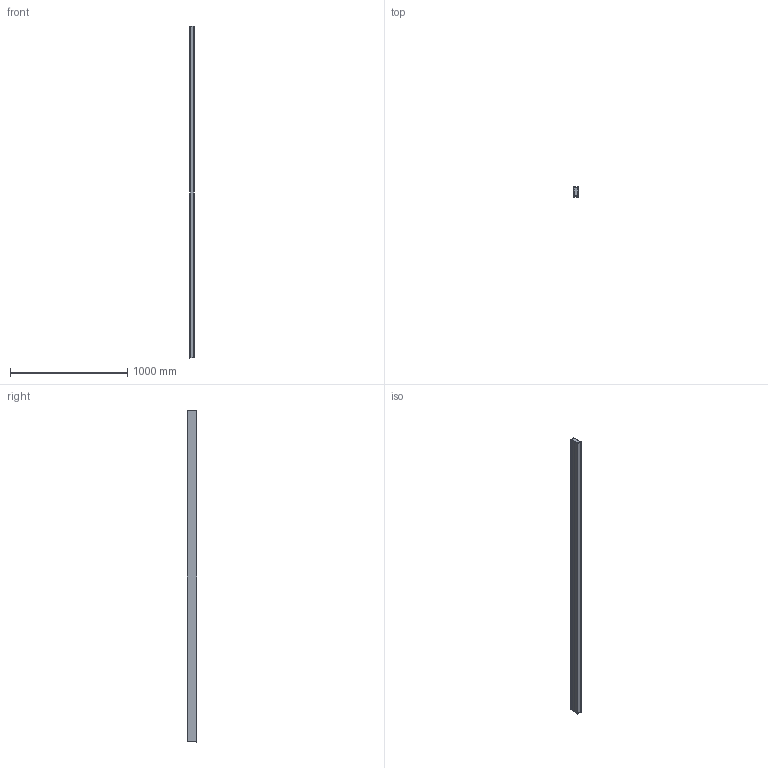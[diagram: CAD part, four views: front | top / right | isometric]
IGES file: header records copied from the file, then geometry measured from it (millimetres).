
Start section: SolidWorks IGES file using analytic representation for surfaces
Global section: file name: C:\Users\JoãoSantos\Desktop\02_3D.2D\01_2020\02_Linear\04_U35\01_Recessed\U35_RECESSED_2831.IGS; native system: SolidWorks 2020; preprocessor: SolidWorks 2020; author: JoãoSantos; date: 201022.124355; units: millimetre
Bounding box: 42 x 83 x 2827 mm (x, y, z)
Surface area: 1631813.5 mm2 (no closed solid volume)
Topology: 0 solids, 0 shells, 201 faces, 1612 edges, 1604 vertices
Faces by surface type: revolution 103, bspline 98
